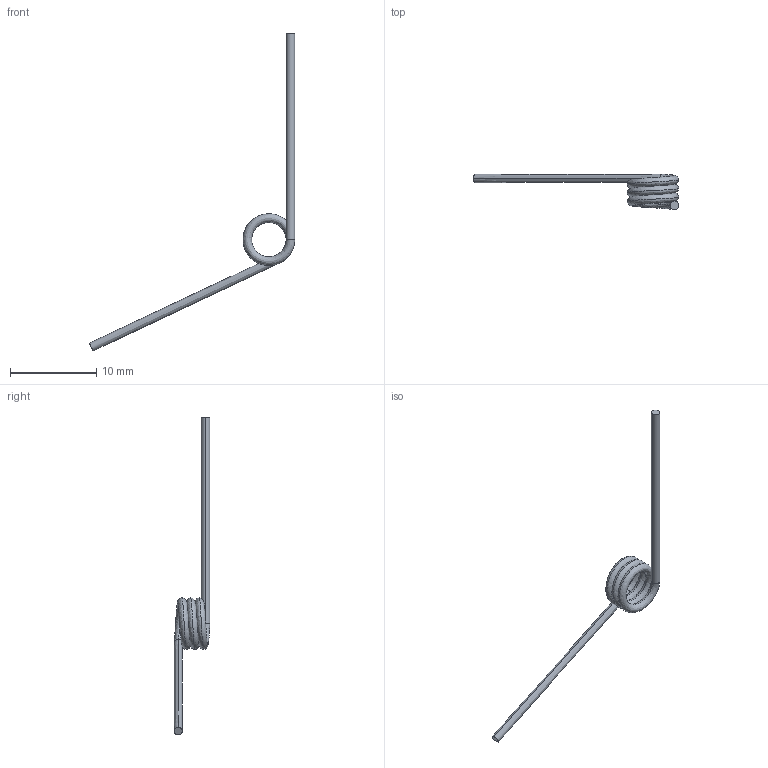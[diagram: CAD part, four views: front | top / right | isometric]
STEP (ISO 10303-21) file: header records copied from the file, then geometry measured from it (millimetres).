
FILE_DESCRIPTION((''),'2;1');
FILE_NAME('PRT0001','2024-02-22T10:29:07',('qinghui.yi'),(''),'CREO PARAMETRIC BY PTC INC, 2019164','CREO PARAMETRIC BY PTC INC, 2019164','');
FILE_SCHEMA(('CONFIG_CONTROL_DESIGN','SHAPE_APPEARANCE_LAYERS_GROUPS'));
Length unit declared in the file: millimetre
Products named in the file (1): PRT0001
Bounding box: 23.86 x 4.18 x 36.93 mm (x, y, z)
Volume: 75.3 mm3; surface area: 305.7 mm2
Topology: 1 solids, 1 shells, 11 faces, 28 edges, 22 vertices
Faces by surface type: plane 5, bspline 2, extrusion 2, cylinder 2
Entity records: 1511 total; most frequent: CARTESIAN_POINT 880, COLOUR_RGB 312, ORIENTED_EDGE 44, DIRECTION 42, EDGE_CURVE 22, AXIS2_PLACEMENT_3D 16, B_SPLINE_CURVE_WITH_KNOTS 14, VERTEX_POINT 12
